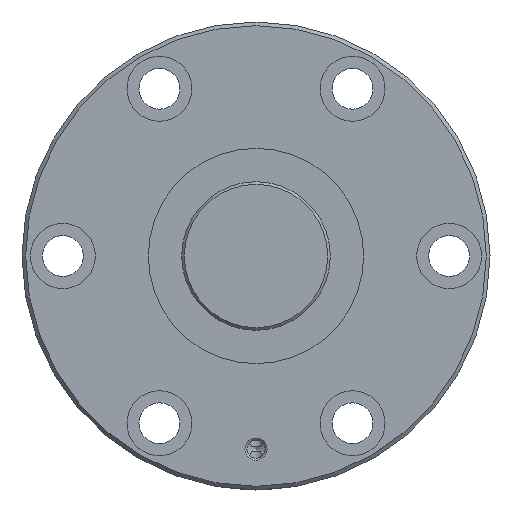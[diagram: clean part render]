
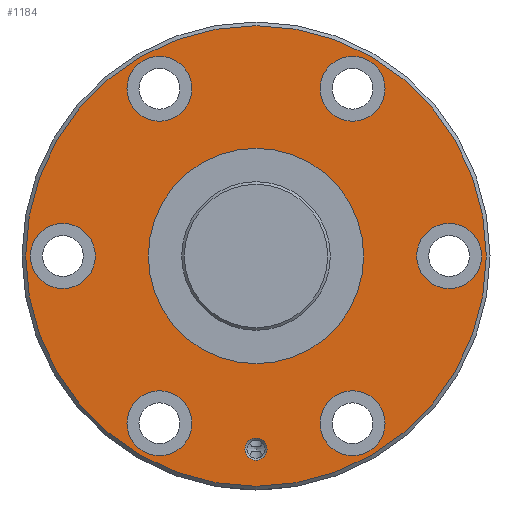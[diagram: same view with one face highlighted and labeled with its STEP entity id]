
A CAD part, left-side view. The second image highlights one B-rep face of the part: STEP entity #1184.
In plain terms, the highlighted planar face has unit normal (-1, 0, 0).
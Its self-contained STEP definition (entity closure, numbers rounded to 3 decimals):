
#257=ORIENTED_EDGE('',*,*,#542,.T.);
#258=ORIENTED_EDGE('',*,*,#543,.T.);
#259=ORIENTED_EDGE('',*,*,#544,.T.);
#260=ORIENTED_EDGE('',*,*,#545,.T.);
#261=ORIENTED_EDGE('',*,*,#546,.T.);
#262=ORIENTED_EDGE('',*,*,#547,.T.);
#263=ORIENTED_EDGE('',*,*,#548,.T.);
#264=ORIENTED_EDGE('',*,*,#549,.T.);
#265=ORIENTED_EDGE('',*,*,#541,.F.);
#541=EDGE_CURVE('',#685,#685,#762,.T.);
#542=EDGE_CURVE('',#686,#686,#763,.T.);
#543=EDGE_CURVE('',#687,#687,#764,.F.);
#544=EDGE_CURVE('',#688,#688,#765,.T.);
#545=EDGE_CURVE('',#689,#689,#766,.T.);
#546=EDGE_CURVE('',#690,#690,#767,.T.);
#547=EDGE_CURVE('',#691,#691,#768,.T.);
#548=EDGE_CURVE('',#692,#692,#769,.T.);
#549=EDGE_CURVE('',#693,#693,#770,.T.);
#685=VERTEX_POINT('',#2123);
#686=VERTEX_POINT('',#2126);
#687=VERTEX_POINT('',#2128);
#688=VERTEX_POINT('',#2130);
#689=VERTEX_POINT('',#2132);
#690=VERTEX_POINT('',#2134);
#691=VERTEX_POINT('',#2136);
#692=VERTEX_POINT('',#2138);
#693=VERTEX_POINT('',#2140);
#762=CIRCLE('',#1314,62.);
#763=CIRCLE('',#1316,29.);
#764=CIRCLE('',#1317,8.75);
#765=CIRCLE('',#1318,3.);
#766=CIRCLE('',#1319,8.75);
#767=CIRCLE('',#1320,8.75);
#768=CIRCLE('',#1321,8.75);
#769=CIRCLE('',#1322,8.75);
#770=CIRCLE('',#1323,8.75);
#858=EDGE_LOOP('',(#257));
#859=EDGE_LOOP('',(#258));
#860=EDGE_LOOP('',(#259));
#861=EDGE_LOOP('',(#260));
#862=EDGE_LOOP('',(#261));
#863=EDGE_LOOP('',(#262));
#864=EDGE_LOOP('',(#263));
#865=EDGE_LOOP('',(#264));
#866=EDGE_LOOP('',(#265));
#1006=FACE_BOUND('',#858,.T.);
#1007=FACE_BOUND('',#859,.T.);
#1008=FACE_BOUND('',#860,.T.);
#1009=FACE_BOUND('',#861,.T.);
#1010=FACE_BOUND('',#862,.T.);
#1011=FACE_BOUND('',#863,.T.);
#1012=FACE_BOUND('',#864,.T.);
#1013=FACE_BOUND('',#865,.T.);
#1014=FACE_BOUND('',#866,.T.);
#1134=PLANE('',#1315);
#1184=ADVANCED_FACE('',(#1006,#1007,#1008,#1009,#1010,#1011,#1012,#1013,
#1014),#1134,.T.);
#1314=AXIS2_PLACEMENT_3D('',#2122,#1560,#1561);
#1315=AXIS2_PLACEMENT_3D('',#2124,#1562,#1563);
#1316=AXIS2_PLACEMENT_3D('',#2125,#1564,#1565);
#1317=AXIS2_PLACEMENT_3D('',#2127,#1566,#1567);
#1318=AXIS2_PLACEMENT_3D('',#2129,#1568,#1569);
#1319=AXIS2_PLACEMENT_3D('',#2131,#1570,#1571);
#1320=AXIS2_PLACEMENT_3D('',#2133,#1572,#1573);
#1321=AXIS2_PLACEMENT_3D('',#2135,#1574,#1575);
#1322=AXIS2_PLACEMENT_3D('',#2137,#1576,#1577);
#1323=AXIS2_PLACEMENT_3D('',#2139,#1578,#1579);
#1560=DIRECTION('',(1.,0.,0.));
#1561=DIRECTION('',(0.,0.,-1.));
#1562=DIRECTION('',(-1.,0.,0.));
#1563=DIRECTION('',(0.,0.,1.));
#1564=DIRECTION('',(1.,0.,0.));
#1565=DIRECTION('',(0.,0.,-1.));
#1566=DIRECTION('',(-1.,0.,0.));
#1567=DIRECTION('',(0.,0.,1.));
#1568=DIRECTION('',(1.,0.,0.));
#1569=DIRECTION('',(0.,1.,0.));
#1570=DIRECTION('',(1.,0.,0.));
#1571=DIRECTION('',(0.,0.,-1.));
#1572=DIRECTION('',(1.,0.,0.));
#1573=DIRECTION('',(0.,0.,-1.));
#1574=DIRECTION('',(1.,0.,0.));
#1575=DIRECTION('',(0.,0.,-1.));
#1576=DIRECTION('',(1.,0.,0.));
#1577=DIRECTION('',(0.,0.,-1.));
#1578=DIRECTION('',(1.,0.,0.));
#1579=DIRECTION('',(0.,0.,-1.));
#2122=CARTESIAN_POINT('',(0.,0.,0.));
#2123=CARTESIAN_POINT('',(0.,0.,-62.));
#2124=CARTESIAN_POINT('',(0.,62.,0.));
#2125=CARTESIAN_POINT('',(0.,0.,0.));
#2126=CARTESIAN_POINT('',(0.,0.,-29.));
#2127=CARTESIAN_POINT('',(0.,52.,0.));
#2128=CARTESIAN_POINT('',(0.,52.,8.75));
#2129=CARTESIAN_POINT('',(0.,0.,-52.));
#2130=CARTESIAN_POINT('',(0.,3.,-52.));
#2131=CARTESIAN_POINT('',(0.,26.,45.033));
#2132=CARTESIAN_POINT('',(0.,26.,36.283));
#2133=CARTESIAN_POINT('',(0.,-26.,-45.033));
#2134=CARTESIAN_POINT('',(0.,-26.,-53.783));
#2135=CARTESIAN_POINT('',(0.,-26.,45.033));
#2136=CARTESIAN_POINT('',(0.,-26.,36.283));
#2137=CARTESIAN_POINT('',(0.,26.,-45.033));
#2138=CARTESIAN_POINT('',(0.,26.,-53.783));
#2139=CARTESIAN_POINT('',(0.,-52.,0.));
#2140=CARTESIAN_POINT('',(0.,-52.,-8.75));
